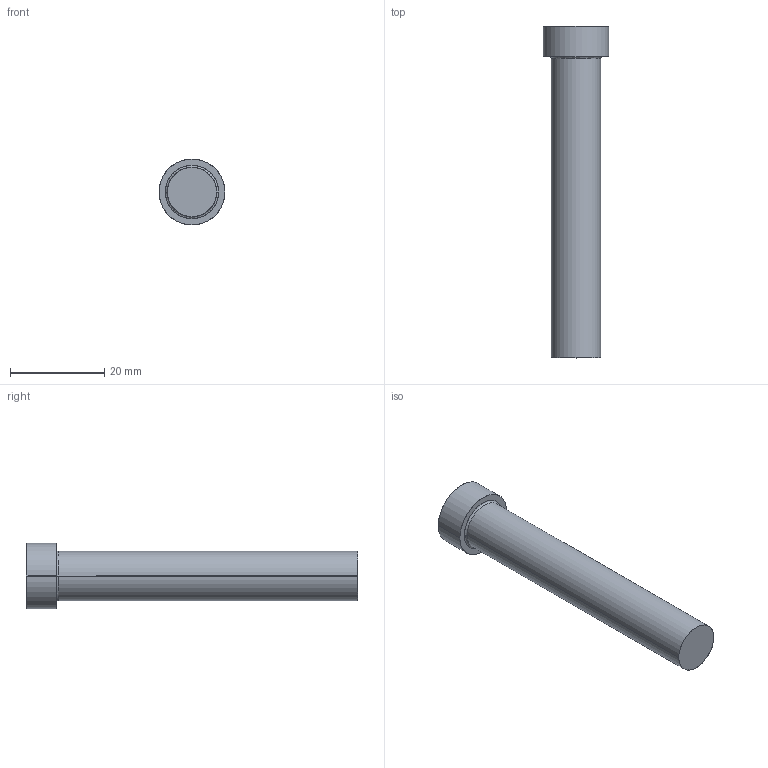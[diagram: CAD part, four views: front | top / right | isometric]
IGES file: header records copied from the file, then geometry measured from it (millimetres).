
Start section: SolidWorks IGES file using analytic representation for surfaces
Global section: file name: D:\Cleonir_arquivos\MT_15_07\Punções de Corte tipo E DIN 9861\PNE10,5070.igs; native system: SolidWorks 2013; preprocessor: SolidWorks 2013; author: Cleonir; date: 130731.214508; units: millimetre
Bounding box: 14 x 70.5 x 14 mm (x, y, z)
Surface area: 2699.6 mm2 (no closed solid volume)
Topology: 0 solids, 0 shells, 283 faces, 2145 edges, 2145 vertices
Faces by surface type: bspline 271, revolution 12
